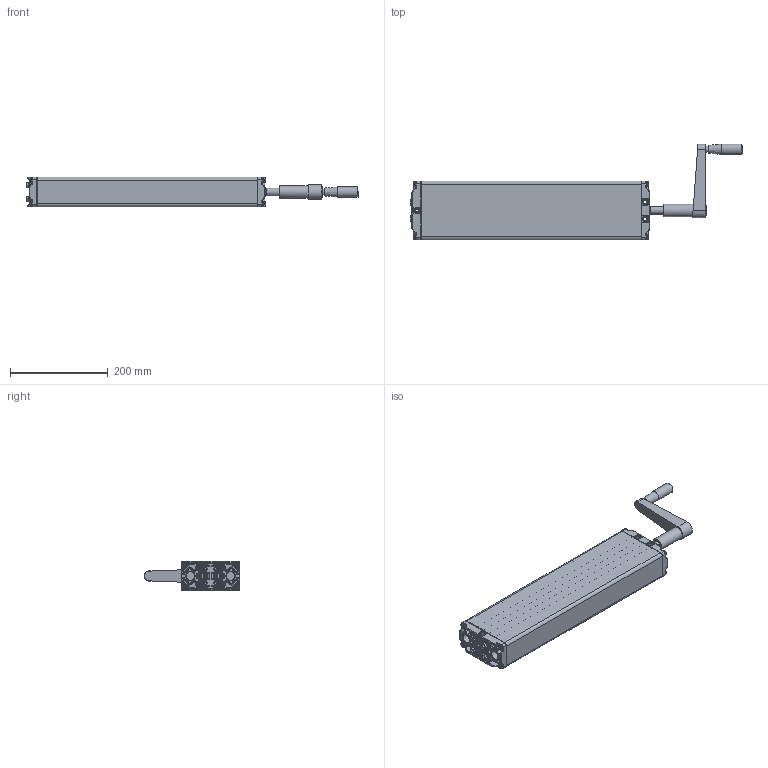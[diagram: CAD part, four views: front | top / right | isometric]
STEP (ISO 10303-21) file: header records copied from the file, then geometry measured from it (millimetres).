
FILE_DESCRIPTION(/* description */ ('Unknown'),/* implementation_level */ '2;1');
FILE_NAME(/* name */ '312.20054 Pumpe PB 4640 W mit Handkurbel',/* time_stamp */ '2016-09-02T14:02:00+02:00',/* author */ ('Unknown'),/* organization */ ('Unknown'),/* preprocessor_version */ 'ST-DEVELOPER v16.7',/* originating_system */ 'DEX',/* authorisation */ $);
FILE_SCHEMA (('AUTOMOTIVE_DESIGN {1 0 10303 214 3 1 1}'));
Products named in the file (21): 102.20054; 115.00042; 125.00046; 142.00021; 125.00021; 115.00003; 113.00005; 128.00001; 125.00052; 126.00013; 125.00053; 127.00014; Handgriff; 142.00013; 125.00143; 115.00140; 126.00006; 122.00040; 119.00043; 126.00005; 142.00057
Assembly tree (30 placements, depth 3):
  102.20054
    115.00042  x4
      125.00046
      142.00021
      125.00021
      115.00003
    113.00005
      128.00001
      125.00052
      126.00013
      125.00053
      127.00014
      Handgriff
    142.00013  x8
    125.00143
    115.00140
      126.00006
      122.00040
    119.00043
    126.00005
    142.00057
Bounding box: 677.72 x 195.5 x 60.3 mm (x, y, z)
Volume: 783254.4 mm3; surface area: 473942.9 mm2
Topology: 32 solids, 32 shells, 2579 faces, 6103 edges, 3518 vertices
Faces by surface type: plane 711, bspline 707, cylinder 575, cone 356, torus 172, sphere 58
Full cylindrical faces by diameter (mm): 3.5 x4, 4 x2, 4.1 x4, 4.2 x5, 4.917 x2, 5 x8, 6.917 x8, 8 x10, 9.8 x8, 10 x4, 10.4 x1, 12.8 x1, 13 x1, 14 x1, 16 x2, 17 x1, 17.3 x4, 18 x1, 19 x1, 20.6 x1, 21 x1, 22 x1, 22.4 x4, 25.5 x1, 25.9 x8
Entity records: 101204 total; most frequent: CARTESIAN_POINT 55693, ORIENTED_EDGE 8526, DIRECTION 6935, EDGE_CURVE 4263, AXIS2_PLACEMENT_3D 2788, VERTEX_POINT 2625, FACE_BOUND 2108, EDGE_LOOP 2105
